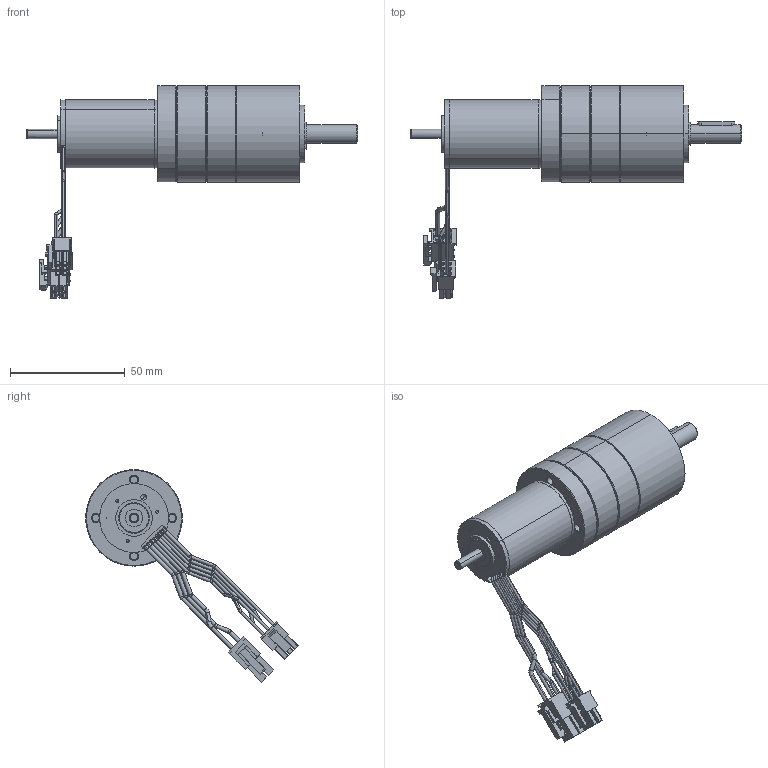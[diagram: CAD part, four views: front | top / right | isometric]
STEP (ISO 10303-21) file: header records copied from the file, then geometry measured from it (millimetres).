
FILE_DESCRIPTION (( 'STEP AP214' ), '1' );
FILE_NAME ('ECi30_PM42-2etages.STEP', '2019-11-08T13:48:28', ( '' ), ( '' ), 'SwSTEP 2.0', 'SolidWorks 2018', '' );
FILE_SCHEMA (( 'AUTOMOTIVE_DESIGN' ));
Length unit declared in the file: millimetre
Products named in the file (17): DIN998_PS_8X14X1_14_1; MOTORFLANSCH_1241491_1_1; ECi30_PM42-2etages; 8007606_DICHTRING_13_1; MOTORRITZEL_Z17_1239849_1_1; 8001305_LAGERBOLZEN_14_1; 3X3X16_D6885A_14_1; SCHRAUBE_1241978_23_1; VBZ_K7841_ABTRIEB_AF0_14_1; D625-608-2RS_13_1; D912_M3X8_9_1; D471_8X0_8_14_1; 8001288_ANLAUFSCHEIBE_1ST_12_1; 539481_EC-i30_45W_HighTorque; P8209_8007589_ZAHNKRANZ_Z46_13_1; 8007595_LAGERFLANSCH_13_1; 8001316_ABTRIEB_LK4_KPL_13_1
Assembly tree (29 placements, depth 3):
  ECi30_PM42-2etages
    8007595_LAGERFLANSCH_13_1
    D625-608-2RS_13_1  x2
    DIN998_PS_8X14X1_14_1  x2
    8001316_ABTRIEB_LK4_KPL_13_1
      VBZ_K7841_ABTRIEB_AF0_14_1
      8001305_LAGERBOLZEN_14_1  x3
    D471_8X0_8_14_1
    3X3X16_D6885A_14_1
    8007606_DICHTRING_13_1  x3
    P8209_8007589_ZAHNKRANZ_Z46_13_1  x2
    MOTORFLANSCH_1241491_1_1
    8001288_ANLAUFSCHEIBE_1ST_12_1
    MOTORRITZEL_Z17_1239849_1_1
    SCHRAUBE_1241978_23_1  x4
    D912_M3X8_9_1  x4
    539481_EC-i30_45W_HighTorque
Bounding box: 144.25 x 92.52 x 92.56 mm (x, y, z)
Volume: 24699.8 mm3; surface area: 62385.8 mm2
Topology: 20 solids, 55 shells, 1707 faces, 4539 edges, 2924 vertices
Faces by surface type: plane 750, cylinder 672, cone 143, bspline 82, torus 60
Entity records: 55786 total; most frequent: CARTESIAN_POINT 10252, DIRECTION 7016, ORIENTED_EDGE 6720, EDGE_CURVE 3423, AXIS2_PLACEMENT_3D 2480, VERTEX_POINT 2219, VECTOR 2056, LINE 2056
